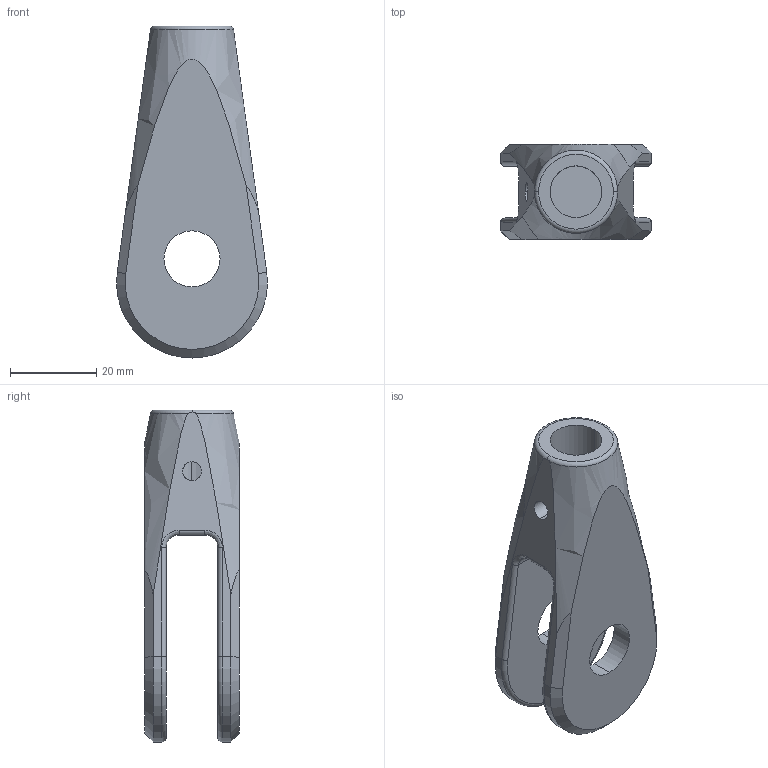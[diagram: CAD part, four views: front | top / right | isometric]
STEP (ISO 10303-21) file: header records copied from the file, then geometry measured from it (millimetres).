
FILE_DESCRIPTION (( 'STEP AP203' ), '1' );
FILE_NAME ('Gabelkopf M12.STEP', '2018-02-20T06:35:00', ( 'install' ), ( 'Hewlett-Packard Company' ), 'SwSTEP 2.0', 'SolidWorks 2017', '' );
FILE_SCHEMA (( 'CONFIG_CONTROL_DESIGN' ));
Length unit declared in the file: millimetre
Products named in the file (1): Gabelkopf M12
Bounding box: 34.98 x 22 x 77 mm (x, y, z)
Volume: 22437.4 mm3; surface area: 10057.8 mm2
Topology: 1 solids, 1 shells, 47 faces, 115 edges, 70 vertices
Faces by surface type: cylinder 20, plane 13, cone 5, torus 5, bspline 4
Entity records: 1869 total; most frequent: CARTESIAN_POINT 717, ORIENTED_EDGE 230, DIRECTION 222, EDGE_CURVE 115, AXIS2_PLACEMENT_3D 89, VERTEX_POINT 70, EDGE_LOOP 53, ADVANCED_FACE 47
